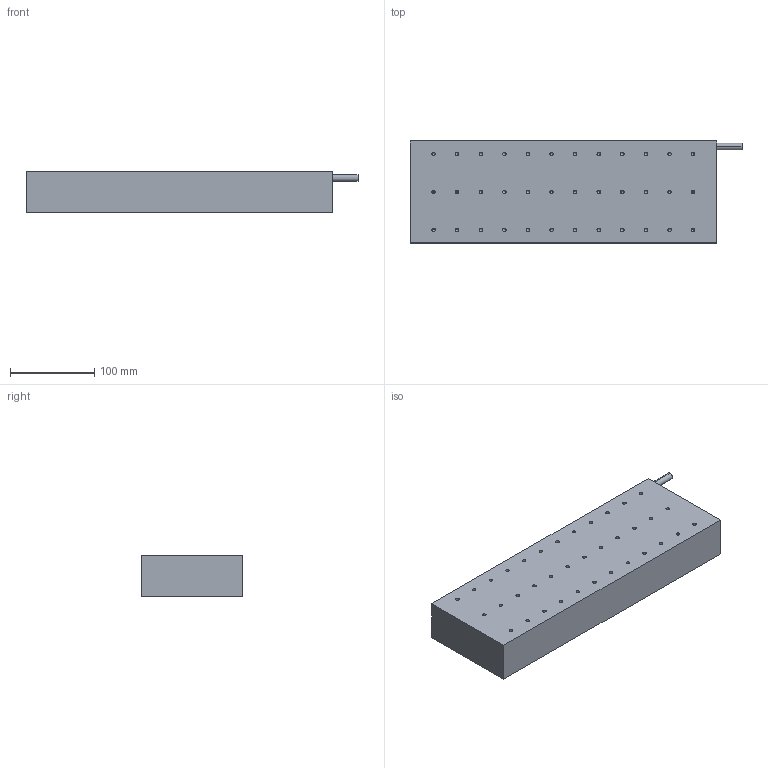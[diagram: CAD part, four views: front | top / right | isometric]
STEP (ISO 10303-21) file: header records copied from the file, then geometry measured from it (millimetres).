
FILE_DESCRIPTION (( 'STEP AP214' ), '1' );
FILE_NAME ('WKM100C雄赽.STEP', '2025-09-05T11:58:55', ( '' ), ( '' ), 'SwSTEP 2.0', 'SolidWorks 2016', '' );
FILE_SCHEMA (( 'AUTOMOTIVE_DESIGN' ));
Length unit declared in the file: millimetre
Products named in the file (1): WKM100C雄赽
Bounding box: 394 x 121 x 49.3 mm (x, y, z)
Volume: 2169924.2 mm3; surface area: 139358.6 mm2
Topology: 1 solids, 1 shells, 153 faces, 378 edges, 192 vertices
Faces by surface type: cylinder 74, cone 72, plane 7
Entity records: 4806 total; most frequent: DIRECTION 762, CARTESIAN_POINT 652, ORIENTED_EDGE 612, EDGE_CURVE 306, AXIS2_PLACEMENT_3D 302, VERTEX_POINT 192, EDGE_LOOP 190, VECTOR 158
